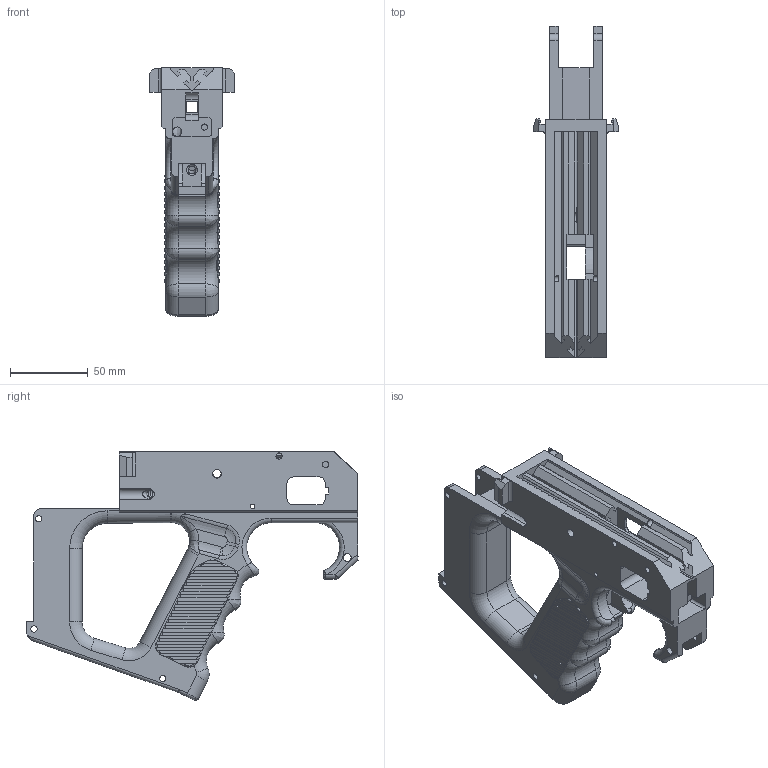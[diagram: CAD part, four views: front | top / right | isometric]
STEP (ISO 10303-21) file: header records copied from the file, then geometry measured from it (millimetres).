
FILE_DESCRIPTION(('HOOPS Exchange Step'),'2;1');
FILE_NAME('/private/var/mobile/Containers/Data/Application/4B1A7BF2-BF60-4167-B720-BE744F57E5F5/tmp/export/temp_export','2026-08-15T11:39:55-05:00',('mobile'),('Shapr3D Limited'),'HOOPS Exchange 2026.3','Shapr3D','Authorized');
FILE_SCHEMA( ('AP242_MANAGED_MODEL_BASED_3D_ENGINEERING_MIM_LF {1 0 10303 442 1 1 4}') );
Length unit declared in the file: millimetre
Products named in the file (4): Grip; Back; root
Assembly tree (3 placements, depth 4):
  root
    Back
      Grip
        Grip
Bounding box: 54.73 x 214.03 x 160.31 mm (x, y, z)
Volume: 417560.5 mm3; surface area: 95205.3 mm2
Topology: 1 solids, 1 shells, 560 faces, 1624 edges, 1048 vertices
Faces by surface type: plane 336, cylinder 134, torus 52, bspline 35, sphere 2, cone 1
Full cylindrical faces by diameter (mm): 2.9 x2, 4 x10, 4.8 x1, 5 x3, 5.56 x1, 6 x2, 7.8 x1, 9.6 x1
Entity records: 33094 total; most frequent: CARTESIAN_POINT 18770, ORIENTED_EDGE 3232, DIRECTION 2732, EDGE_CURVE 1616, VERTEX_POINT 1048, VECTOR 930, LINE 930, AXIS2_PLACEMENT_3D 901
